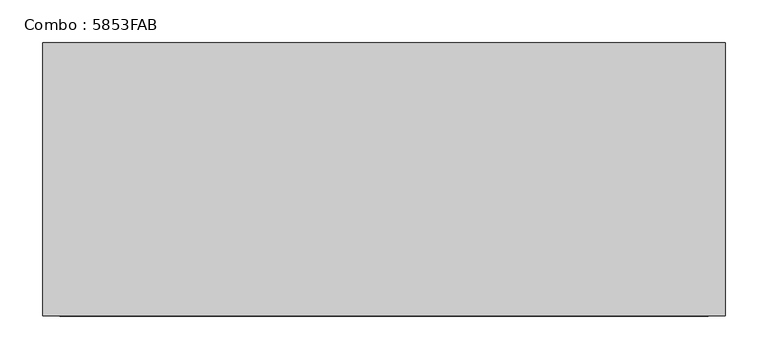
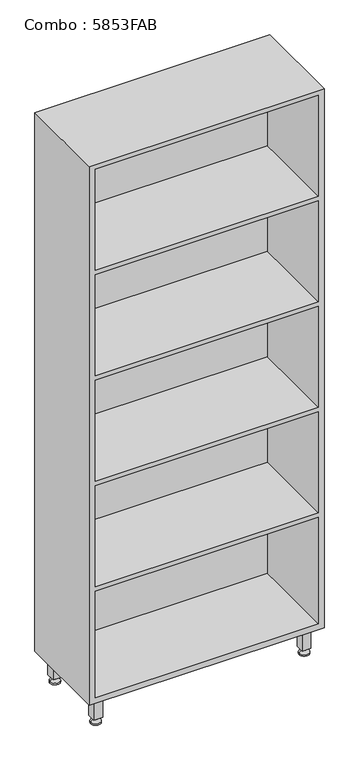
"""IFC4 building model written with IfcOpenShell, lengths in millimetres: furniture geometry, Combo : 5853FAB."""

from ifc_helpers import new_model, si_unit, frame, origin, place, context, project, spatial, polyline, circle_curve, outline, extrude, faceted_brep, source, transform, mapped, element, save
from ifc_brep_helpers import plane_surface, cylinder_surface, revolved_surface, advanced_brep


def combo_5853fab_45658896(model_context):
    return source(origin(), model_context, "Body", "SolidModel", [
        extrude(outline(polyline([(-370.0, -265.0), (-340.0, -265.0), (-340.0, -295.0), (-370.0, -295.0), (-370.0, -265.0)])), frame((0.0, 0.0, 20.0), z_axis=(0.0, 0.0, 1.0), x_axis=(1.0, 0.0, 0.0)), (0.0, 0.0, 1.0), 80.0),
        extrude(outline(polyline([(370.0, -265.0), (370.0, -295.0), (340.0, -295.0), (340.0, -265.0), (370.0, -265.0)])), frame((0.0, 0.0, 20.0), z_axis=(0.0, 0.0, 1.0), x_axis=(1.0, 0.0, 0.0)), (0.0, 0.0, 1.0), 80.0),
        extrude(outline(polyline([(-370.0, -55.0), (-370.0, -25.0), (-340.0, -25.0), (-340.0, -55.0), (-370.0, -55.0)])), frame((0.0, 0.0, 20.0), z_axis=(0.0, 0.0, 1.0), x_axis=(1.0, 0.0, 0.0)), (0.0, 0.0, 1.0), 80.0),
        extrude(outline(polyline([(370.0, -55.0), (340.0, -55.0), (340.0, -25.0), (370.0, -25.0), (370.0, -55.0)])), frame((0.0, 0.0, 20.0), z_axis=(0.0, 0.0, 1.0), x_axis=(1.0, 0.0, 0.0)), (0.0, 0.0, 1.0), 80.0),
        advanced_brep(
        [(347.1856158, -40.0, 20.0), (362.8143842, -40.0, 20.0), (355.0, -40.0, 20.0), (347.1856158, -40.0, 14.2030034), (362.8143842, -40.0, 14.2030034), (337.9826125, -40.0, 5.0), (372.0173875, -40.0, 5.0), (337.9826125, -40.0, 0.0), (372.0173875, -40.0, 0.0), (355.0, -40.0, 0.0)],
        [
            (0, 1, circle_curve(frame((355.0, -40.0, 20.0), z_axis=(0.0, 0.0, 1.0), x_axis=(1.0, 0.0, 0.0)), 7.8143842)),
            (1, 2),
            (2, 0),
            (1, 0, circle_curve(frame((355.0, -40.0, 20.0), z_axis=(0.0, 0.0, 1.0), x_axis=(1.0, 0.0, 0.0)), 7.8143842)),
            (3, 4, circle_curve(frame((355.0, -40.0, 14.2030034), z_axis=(0.0, 0.0, 1.0), x_axis=(1.0, 0.0, 0.0)), 7.8143842)),
            (4, 1),
            (0, 3),
            (4, 3, circle_curve(frame((355.0, -40.0, 14.2030034), z_axis=(0.0, 0.0, 1.0), x_axis=(1.0, 0.0, 0.0)), 7.8143842)),
            (5, 6, circle_curve(frame((355.0, -40.0, 5.0), z_axis=(0.0, 0.0, 1.0), x_axis=(1.0, 0.0, 0.0)), 17.0173875)),
            (6, 4),
            (3, 5),
            (6, 5, circle_curve(frame((355.0, -40.0, 5.0), z_axis=(0.0, 0.0, 1.0), x_axis=(1.0, 0.0, 0.0)), 17.0173875)),
            (7, 8, circle_curve(frame((355.0, -40.0, 0.0), z_axis=(0.0, 0.0, 1.0), x_axis=(1.0, 0.0, 0.0)), 17.0173875)),
            (8, 6),
            (5, 7),
            (8, 7, circle_curve(frame((355.0, -40.0, 0.0), z_axis=(0.0, 0.0, 1.0), x_axis=(1.0, 0.0, 0.0)), 17.0173875)),
            (9, 8),
            (7, 9),
        ],
        [
            plane_surface(frame((355.0, -40.0, 20.0), z_axis=(0.0, 0.0, 1.0), x_axis=(1.0, 0.0, 0.0))),
            cylinder_surface(frame((355.0, -40.0, 20.0), z_axis=(0.0, 0.0, -1.0), x_axis=(1.0, 0.0, 0.0)), 7.8143842),
            revolved_surface(polyline([(362.8143842, -40.0, 14.2030034), (372.0173875, -40.0, 5.0)]), (355.0, -40.0, 20.0), (0.0, 0.0, -1.0)),
            cylinder_surface(frame((355.0, -40.0, 20.0), z_axis=(0.0, 0.0, -1.0), x_axis=(1.0, 0.0, 0.0)), 17.0173875),
            plane_surface(frame((355.0, -40.0, 0.0), z_axis=(0.0, 0.0, -1.0), x_axis=(1.0, 0.0, 0.0))),
        ],
        [
            (0, [[1, 2, 3]]),
            (0, [[4, -3, -2]]),
            (1, [[5, 6, -1, 7]]),
            (1, [[8, -7, -4, -6]]),
            (2, [[9, 10, -5, 11]]),
            (2, [[12, -11, -8, -10]]),
            (3, [[13, 14, -9, 15]]),
            (3, [[16, -15, -12, -14]]),
            (4, [[17, -13, 18]]),
            (4, [[-18, -16, -17]]),
        ],
    ),
        advanced_brep(
        [(-362.8143842, -40.0, 20.0), (-347.1856158, -40.0, 20.0), (-355.0, -40.0, 20.0), (-362.8143842, -40.0, 14.2030034), (-347.1856158, -40.0, 14.2030034), (-372.0173875, -40.0, 5.0), (-337.9826125, -40.0, 5.0), (-372.0173875, -40.0, 0.0), (-337.9826125, -40.0, 0.0), (-355.0, -40.0, 0.0)],
        [
            (0, 1, circle_curve(frame((-355.0, -40.0, 20.0), z_axis=(0.0, 0.0, 1.0), x_axis=(1.0, 0.0, 0.0)), 7.8143842)),
            (1, 2),
            (2, 0),
            (1, 0, circle_curve(frame((-355.0, -40.0, 20.0), z_axis=(0.0, 0.0, 1.0), x_axis=(1.0, 0.0, 0.0)), 7.8143842)),
            (3, 4, circle_curve(frame((-355.0, -40.0, 14.2030034), z_axis=(0.0, 0.0, 1.0), x_axis=(1.0, 0.0, 0.0)), 7.8143842)),
            (4, 1),
            (0, 3),
            (4, 3, circle_curve(frame((-355.0, -40.0, 14.2030034), z_axis=(0.0, 0.0, 1.0), x_axis=(1.0, 0.0, 0.0)), 7.8143842)),
            (5, 6, circle_curve(frame((-355.0, -40.0, 5.0), z_axis=(0.0, 0.0, 1.0), x_axis=(1.0, 0.0, 0.0)), 17.0173875)),
            (6, 4),
            (3, 5),
            (6, 5, circle_curve(frame((-355.0, -40.0, 5.0), z_axis=(0.0, 0.0, 1.0), x_axis=(1.0, 0.0, 0.0)), 17.0173875)),
            (7, 8, circle_curve(frame((-355.0, -40.0, 0.0), z_axis=(0.0, 0.0, 1.0), x_axis=(1.0, 0.0, 0.0)), 17.0173875)),
            (8, 6),
            (5, 7),
            (8, 7, circle_curve(frame((-355.0, -40.0, 0.0), z_axis=(0.0, 0.0, 1.0), x_axis=(1.0, 0.0, 0.0)), 17.0173875)),
            (9, 8),
            (7, 9),
        ],
        [
            plane_surface(frame((-355.0, -40.0, 20.0), z_axis=(0.0, 0.0, 1.0), x_axis=(1.0, 0.0, 0.0))),
            cylinder_surface(frame((-355.0, -40.0, 20.0), z_axis=(0.0, 0.0, -1.0), x_axis=(1.0, 0.0, 0.0)), 7.8143842),
            revolved_surface(polyline([(-347.1856158, -40.0, 14.2030034), (-337.9826125, -40.0, 5.0)]), (-355.0, -40.0, 20.0), (0.0, 0.0, -1.0)),
            cylinder_surface(frame((-355.0, -40.0, 20.0), z_axis=(0.0, 0.0, -1.0), x_axis=(1.0, 0.0, 0.0)), 17.0173875),
            plane_surface(frame((-355.0, -40.0, 0.0), z_axis=(0.0, 0.0, -1.0), x_axis=(1.0, 0.0, 0.0))),
        ],
        [
            (0, [[1, 2, 3]]),
            (0, [[4, -3, -2]]),
            (1, [[5, 6, -1, 7]]),
            (1, [[8, -7, -4, -6]]),
            (2, [[9, 10, -5, 11]]),
            (2, [[12, -11, -8, -10]]),
            (3, [[13, 14, -9, 15]]),
            (3, [[16, -15, -12, -14]]),
            (4, [[17, -13, 18]]),
            (4, [[-18, -16, -17]]),
        ],
    ),
        advanced_brep(
        [(347.1856158, -280.0, 20.0), (362.8143842, -280.0, 20.0), (355.0, -280.0, 20.0), (347.1856158, -280.0, 14.2030034), (362.8143842, -280.0, 14.2030034), (337.9826125, -280.0, 5.0), (372.0173875, -280.0, 5.0), (337.9826125, -280.0, 0.0), (372.0173875, -280.0, 0.0), (355.0, -280.0, 0.0)],
        [
            (0, 1, circle_curve(frame((355.0, -280.0, 20.0), z_axis=(0.0, 0.0, 1.0), x_axis=(1.0, 0.0, 0.0)), 7.8143842)),
            (1, 2),
            (2, 0),
            (1, 0, circle_curve(frame((355.0, -280.0, 20.0), z_axis=(0.0, 0.0, 1.0), x_axis=(1.0, 0.0, 0.0)), 7.8143842)),
            (3, 4, circle_curve(frame((355.0, -280.0, 14.2030034), z_axis=(0.0, 0.0, 1.0), x_axis=(1.0, 0.0, 0.0)), 7.8143842)),
            (4, 1),
            (0, 3),
            (4, 3, circle_curve(frame((355.0, -280.0, 14.2030034), z_axis=(0.0, 0.0, 1.0), x_axis=(1.0, 0.0, 0.0)), 7.8143842)),
            (5, 6, circle_curve(frame((355.0, -280.0, 5.0), z_axis=(0.0, 0.0, 1.0), x_axis=(1.0, 0.0, 0.0)), 17.0173875)),
            (6, 4),
            (3, 5),
            (6, 5, circle_curve(frame((355.0, -280.0, 5.0), z_axis=(0.0, 0.0, 1.0), x_axis=(1.0, 0.0, 0.0)), 17.0173875)),
            (7, 8, circle_curve(frame((355.0, -280.0, 0.0), z_axis=(0.0, 0.0, 1.0), x_axis=(1.0, 0.0, 0.0)), 17.0173875)),
            (8, 6),
            (5, 7),
            (8, 7, circle_curve(frame((355.0, -280.0, 0.0), z_axis=(0.0, 0.0, 1.0), x_axis=(1.0, 0.0, 0.0)), 17.0173875)),
            (9, 8),
            (7, 9),
        ],
        [
            plane_surface(frame((355.0, -280.0, 20.0), z_axis=(0.0, 0.0, 1.0), x_axis=(1.0, 0.0, 0.0))),
            cylinder_surface(frame((355.0, -280.0, 20.0), z_axis=(0.0, 0.0, -1.0), x_axis=(1.0, 0.0, 0.0)), 7.8143842),
            revolved_surface(polyline([(362.8143842, -280.0, 14.2030034), (372.0173875, -280.0, 5.0)]), (355.0, -280.0, 20.0), (0.0, 0.0, -1.0)),
            cylinder_surface(frame((355.0, -280.0, 20.0), z_axis=(0.0, 0.0, -1.0), x_axis=(1.0, 0.0, 0.0)), 17.0173875),
            plane_surface(frame((355.0, -280.0, 0.0), z_axis=(0.0, 0.0, -1.0), x_axis=(1.0, 0.0, 0.0))),
        ],
        [
            (0, [[1, 2, 3]]),
            (0, [[4, -3, -2]]),
            (1, [[5, 6, -1, 7]]),
            (1, [[8, -7, -4, -6]]),
            (2, [[9, 10, -5, 11]]),
            (2, [[12, -11, -8, -10]]),
            (3, [[13, 14, -9, 15]]),
            (3, [[16, -15, -12, -14]]),
            (4, [[17, -13, 18]]),
            (4, [[-18, -16, -17]]),
        ],
    ),
        advanced_brep(
        [(-362.8143842, -280.0, 20.0), (-347.1856158, -280.0, 20.0), (-355.0, -280.0, 20.0), (-362.8143842, -280.0, 14.2030034), (-347.1856158, -280.0, 14.2030034), (-372.0173875, -280.0, 5.0), (-337.9826125, -280.0, 5.0), (-372.0173875, -280.0, 0.0), (-337.9826125, -280.0, 0.0), (-355.0, -280.0, 0.0)],
        [
            (0, 1, circle_curve(frame((-355.0, -280.0, 20.0), z_axis=(0.0, 0.0, 1.0), x_axis=(1.0, 0.0, 0.0)), 7.8143842)),
            (1, 2),
            (2, 0),
            (1, 0, circle_curve(frame((-355.0, -280.0, 20.0), z_axis=(0.0, 0.0, 1.0), x_axis=(1.0, 0.0, 0.0)), 7.8143842)),
            (3, 4, circle_curve(frame((-355.0, -280.0, 14.2030034), z_axis=(0.0, 0.0, 1.0), x_axis=(1.0, 0.0, 0.0)), 7.8143842)),
            (4, 1),
            (0, 3),
            (4, 3, circle_curve(frame((-355.0, -280.0, 14.2030034), z_axis=(0.0, 0.0, 1.0), x_axis=(1.0, 0.0, 0.0)), 7.8143842)),
            (5, 6, circle_curve(frame((-355.0, -280.0, 5.0), z_axis=(0.0, 0.0, 1.0), x_axis=(1.0, 0.0, 0.0)), 17.0173875)),
            (6, 4),
            (3, 5),
            (6, 5, circle_curve(frame((-355.0, -280.0, 5.0), z_axis=(0.0, 0.0, 1.0), x_axis=(1.0, 0.0, 0.0)), 17.0173875)),
            (7, 8, circle_curve(frame((-355.0, -280.0, 0.0), z_axis=(0.0, 0.0, 1.0), x_axis=(1.0, 0.0, 0.0)), 17.0173875)),
            (8, 6),
            (5, 7),
            (8, 7, circle_curve(frame((-355.0, -280.0, 0.0), z_axis=(0.0, 0.0, 1.0), x_axis=(1.0, 0.0, 0.0)), 17.0173875)),
            (9, 8),
            (7, 9),
        ],
        [
            plane_surface(frame((-355.0, -280.0, 20.0), z_axis=(0.0, 0.0, 1.0), x_axis=(1.0, 0.0, 0.0))),
            cylinder_surface(frame((-355.0, -280.0, 20.0), z_axis=(0.0, 0.0, -1.0), x_axis=(1.0, 0.0, 0.0)), 7.8143842),
            revolved_surface(polyline([(-347.1856158, -280.0, 14.2030034), (-337.9826125, -280.0, 5.0)]), (-355.0, -280.0, 20.0), (0.0, 0.0, -1.0)),
            cylinder_surface(frame((-355.0, -280.0, 20.0), z_axis=(0.0, 0.0, -1.0), x_axis=(1.0, 0.0, 0.0)), 17.0173875),
            plane_surface(frame((-355.0, -280.0, 0.0), z_axis=(0.0, 0.0, -1.0), x_axis=(1.0, 0.0, 0.0))),
        ],
        [
            (0, [[1, 2, 3]]),
            (0, [[4, -3, -2]]),
            (1, [[5, 6, -1, 7]]),
            (1, [[8, -7, -4, -6]]),
            (2, [[9, 10, -5, 11]]),
            (2, [[12, -11, -8, -10]]),
            (3, [[13, 14, -9, 15]]),
            (3, [[16, -15, -12, -14]]),
            (4, [[17, -13, 18]]),
            (4, [[-18, -16, -17]]),
        ],
    ),
        faceted_brep([(400.0, 0.0, 2040.0), (-400.0, 0.0, 2040.0), (-400.0, -320.0, 2040.0), (400.0, -320.0, 2040.0), (-400.0, 0.0, 100.0), (400.0, 0.0, 100.0), (400.0, -320.0, 100.0), (-400.0, -320.0, 100.0), (380.0, -320.0, 1644.0), (380.0, -320.0, 1280.0), (-380.0, -320.0, 1280.0), (-380.0, -320.0, 1644.0), (-380.0, -320.0, 2024.0), (380.0, -320.0, 2024.0), (380.0, -320.0, 1660.0), (-380.0, -320.0, 1660.0), (380.0, -320.0, 120.0), (-380.0, -320.0, 120.0), (-380.0, -320.0, 504.0), (380.0, -320.0, 504.0), (380.0, -320.0, 520.0), (-380.0, -320.0, 520.0), (-380.0, -320.0, 884.0), (380.0, -320.0, 884.0), (380.0, -320.0, 1264.0), (380.0, -320.0, 900.0), (-380.0, -320.0, 900.0), (-380.0, -320.0, 1264.0), (380.0, -20.0, 1280.0), (380.0, -20.0, 1644.0), (-380.0, -20.0, 1644.0), (-380.0, -20.0, 1280.0), (380.0, -20.0, 120.0), (-380.0, -20.0, 120.0), (380.0, -20.0, 520.0), (-380.0, -20.0, 520.0), (380.0, -20.0, 1660.0), (380.0, -20.0, 2024.0), (-380.0, -20.0, 2024.0), (-380.0, -20.0, 1660.0), (380.0, -20.0, 504.0), (-380.0, -20.0, 504.0), (380.0, -20.0, 884.0), (-380.0, -20.0, 884.0), (380.0, -20.0, 900.0), (380.0, -20.0, 1264.0), (-380.0, -20.0, 1264.0), (-380.0, -20.0, 900.0)], [[[0, 1, 2, 3]], [[4, 5, 6, 7]], [[1, 0, 5, 4]], [[2, 1, 4, 7]], [[3, 2, 7, 6], [8, 9, 10, 11], [12, 13, 14, 15], [16, 17, 18, 19], [20, 21, 22, 23], [24, 25, 26, 27]], [[0, 3, 6, 5]], [[28, 29, 30, 31]], [[29, 28, 9, 8]], [[30, 29, 8, 11]], [[31, 30, 11, 10]], [[28, 31, 10, 9]], [[32, 33, 17, 16]], [[34, 35, 21, 20]], [[36, 37, 38, 39]], [[38, 37, 13, 12]], [[32, 40, 41, 33]], [[40, 32, 16, 19]], [[41, 40, 19, 18]], [[33, 41, 18, 17]], [[34, 42, 43, 35]], [[42, 34, 20, 23]], [[43, 42, 23, 22]], [[35, 43, 22, 21]], [[44, 45, 46, 47]], [[45, 44, 25, 24]], [[46, 45, 24, 27]], [[47, 46, 27, 26]], [[44, 47, 26, 25]], [[37, 36, 14, 13]], [[39, 38, 12, 15]], [[36, 39, 15, 14]]]),
    ])


if __name__ == "__main__":
    model = new_model("IFC4")
    model_context = context("Model", 3, world=origin())
    ifc_project = project(units=[si_unit("LENGTHUNIT", "METRE", prefix="MILLI")], contexts=[model_context])
    site = spatial("IfcSite", under=ifc_project)
    building = spatial("IfcBuilding", under=site)
    placement = place(None, origin())
    combo_5853fab_shape = combo_5853fab_45658896(model_context)
    element("IfcFurniture", 1, ObjectType="Combo : 5853FAB", at=placement, inside=building, context=model_context, shape_type="MappedRepresentation", body=[
        mapped(combo_5853fab_shape, transform((0.0, 0.0, 0.0), x_axis=(1.0, 0.0, 0.0), y_axis=(0.0, 1.0, 0.0), z_axis=(0.0, 0.0, 1.0))),
    ])
    save(model, "model.ifc")
